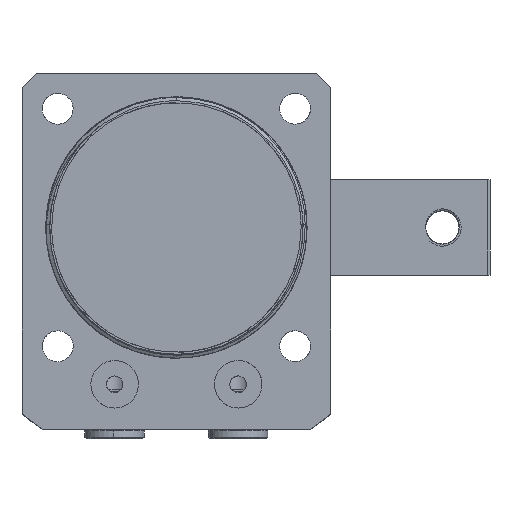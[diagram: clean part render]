
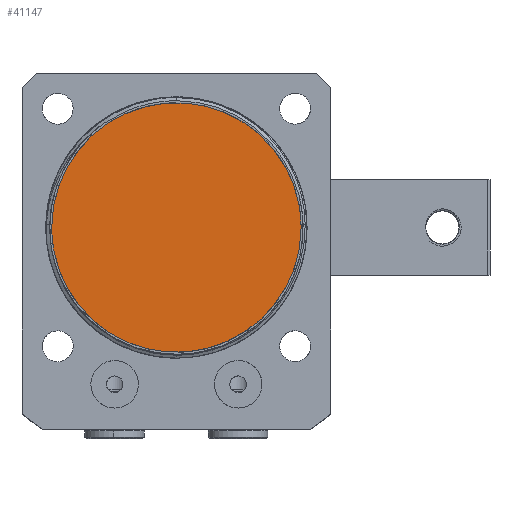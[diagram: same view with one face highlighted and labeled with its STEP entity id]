
A CAD part, front view. The second image highlights one B-rep face of the part: STEP entity #41147.
In plain terms, the highlighted planar face has unit normal (0, -1, 0) as drawn and (0, 0, -1) by its records, which use the part's own axes.
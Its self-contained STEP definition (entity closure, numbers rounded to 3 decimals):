
#5386 = CARTESIAN_POINT ( 'NONE',  ( -26.081, -3.436, 0. ) ) ;
#5719 = CARTESIAN_POINT ( 'NONE',  ( -3.436, -26.081, 0. ) ) ;
#6055 = CARTESIAN_POINT ( 'NONE',  ( 23.595, -11.633, 0. ) ) ;
#6116 = CARTESIAN_POINT ( 'NONE',  ( 24.91, 8.458, 0. ) ) ;
#6453 = CARTESIAN_POINT ( 'NONE',  ( -1.718, 26.25, 0. ) ) ;
#6778 = CARTESIAN_POINT ( 'NONE',  ( -25.41, 6.806, 0. ) ) ;
#12988 = CARTESIAN_POINT ( 'NONE',  ( -24.909, -8.458, 0. ) ) ;
#13317 = CARTESIAN_POINT ( 'NONE',  ( 1.718, -26.25, 0. ) ) ;
#13629 = CARTESIAN_POINT ( 'NONE',  ( 25.411, -6.806, 0. ) ) ;
#13688 = CARTESIAN_POINT ( 'NONE',  ( 22.781, 13.155, 0. ) ) ;
#14034 = CARTESIAN_POINT ( 'NONE',  ( -6.806, 25.41, 0. ) ) ;
#14366 = CARTESIAN_POINT ( 'NONE',  ( -26.25, 1.718, 0. ) ) ;
#14508 = ORIENTED_EDGE ( 'NONE', *, *, #47688, .F. ) ;
#15378 = DIRECTION ( 'NONE',  ( -1., 0., 0. ) ) ;
#15581 = DIRECTION ( 'NONE',  ( 0., 0., -1. ) ) ;
#15687 = PLANE ( 'NONE',  #63154 ) ;
#16661 = CARTESIAN_POINT ( 'NONE',  ( 26.25, 0., 0. ) ) ;
#17123 = VERTEX_POINT ( 'NONE', #16661 ) ;
#17781 = ORIENTED_EDGE ( 'NONE', *, *, #81432, .F. ) ;
#20486 = CARTESIAN_POINT ( 'NONE',  ( -22.78, -13.155, 0. ) ) ;
#20828 = CARTESIAN_POINT ( 'NONE',  ( 6.806, -25.41, 0. ) ) ;
#21151 = CARTESIAN_POINT ( 'NONE',  ( 26.25, -1.718, 0. ) ) ;
#21217 = CARTESIAN_POINT ( 'NONE',  ( 19.777, 17.347, 0. ) ) ;
#21545 = CARTESIAN_POINT ( 'NONE',  ( -11.632, 23.594, 0. ) ) ;
#23646 = B_SPLINE_CURVE_WITH_KNOTS ( 'NONE', 3,
 ( #79610, #28437, #94108, #50946, #6116, #58276, #13688, #65521, #21217, #72715, #28760, #79928, #36393, #87250, #43907, #94427, #51272, #6453, #58585, #14034, #65842, #21545, #73039, #29092, #80241, #36723, #87559, #44237, #94726, #51593, #6778, #58902, #14366, #66165 ),
 .UNSPECIFIED., .F., .F.,
 ( 4, 2, 2, 2, 2, 2, 2, 2, 2, 2, 2, 2, 2, 2, 2, 2, 4 ),
 ( 0., 0.063, 0.125, 0.188, 0.25, 0.313, 0.375, 0.438, 0.5, 0.563, 0.625, 0.688, 0.75, 0.813, 0.875, 0.938, 1. ),
 .UNSPECIFIED. ) ;
#24471 = CARTESIAN_POINT ( 'NONE',  ( 0., -13.125, 0. ) ) ;
#28033 = CARTESIAN_POINT ( 'NONE',  ( -19.776, -17.347, 0. ) ) ;
#28371 = CARTESIAN_POINT ( 'NONE',  ( 11.633, -23.594, 0. ) ) ;
#28437 = CARTESIAN_POINT ( 'NONE',  ( 26.25, 1.718, 0. ) ) ;
#28760 = CARTESIAN_POINT ( 'NONE',  ( 16.012, 20.872, 0. ) ) ;
#29092 = CARTESIAN_POINT ( 'NONE',  ( -16.012, 20.872, 0. ) ) ;
#33640 = VERTEX_POINT ( 'NONE', #47592 ) ;
#35657 = CARTESIAN_POINT ( 'NONE',  ( -16.012, -20.872, 0. ) ) ;
#35994 = CARTESIAN_POINT ( 'NONE',  ( 16.012, -20.872, 0. ) ) ;
#36393 = CARTESIAN_POINT ( 'NONE',  ( 11.633, 23.594, 0. ) ) ;
#36723 = CARTESIAN_POINT ( 'NONE',  ( -19.776, 17.347, 0. ) ) ;
#36899 = B_SPLINE_CURVE_WITH_KNOTS ( 'NONE', 3,
 ( #42873, #86250, #5386, #57574, #12988, #64859, #20486, #72011, #28033, #79242, #35657, #86562, #43200, #93740, #50569, #5719, #57885, #13317, #65161, #20828, #72334, #28371, #79557, #35994, #86865, #43532, #94052, #50888, #6055, #58215, #13629, #65464, #21151, #72657 ),
 .UNSPECIFIED., .F., .F.,
 ( 4, 2, 2, 2, 2, 2, 2, 2, 2, 2, 2, 2, 2, 2, 2, 2, 4 ),
 ( 0., 0.063, 0.125, 0.188, 0.25, 0.312, 0.375, 0.438, 0.5, 0.563, 0.625, 0.688, 0.75, 0.813, 0.875, 0.938, 1. ),
 .UNSPECIFIED. ) ;
#41147 = ADVANCED_FACE ( 'N', ( #79719 ), #15687, .T. ) ;
#42873 = CARTESIAN_POINT ( 'NONE',  ( -26.25, 0., 0. ) ) ;
#43200 = CARTESIAN_POINT ( 'NONE',  ( -11.632, -23.594, 0. ) ) ;
#43532 = CARTESIAN_POINT ( 'NONE',  ( 19.777, -17.347, 0. ) ) ;
#43907 = CARTESIAN_POINT ( 'NONE',  ( 6.806, 25.41, 0. ) ) ;
#44237 = CARTESIAN_POINT ( 'NONE',  ( -22.78, 13.155, 0. ) ) ;
#47555 = EDGE_LOOP ( 'NONE', ( #17781, #14508 ) ) ;
#47592 = CARTESIAN_POINT ( 'NONE',  ( -26.25, 0., 0. ) ) ;
#47688 = EDGE_CURVE ( 'NONE', #17123, #33640, #23646, .T. ) ;
#50569 = CARTESIAN_POINT ( 'NONE',  ( -6.806, -25.41, 0. ) ) ;
#50888 = CARTESIAN_POINT ( 'NONE',  ( 22.781, -13.155, 0. ) ) ;
#50946 = CARTESIAN_POINT ( 'NONE',  ( 25.411, 6.806, 0. ) ) ;
#51272 = CARTESIAN_POINT ( 'NONE',  ( 1.718, 26.25, 0. ) ) ;
#51593 = CARTESIAN_POINT ( 'NONE',  ( -24.909, 8.458, 0. ) ) ;
#57574 = CARTESIAN_POINT ( 'NONE',  ( -25.41, -6.806, 0. ) ) ;
#57885 = CARTESIAN_POINT ( 'NONE',  ( -1.718, -26.25, 0. ) ) ;
#58215 = CARTESIAN_POINT ( 'NONE',  ( 24.91, -8.458, 0. ) ) ;
#58276 = CARTESIAN_POINT ( 'NONE',  ( 23.595, 11.633, 0. ) ) ;
#58585 = CARTESIAN_POINT ( 'NONE',  ( -3.436, 26.081, 0. ) ) ;
#58902 = CARTESIAN_POINT ( 'NONE',  ( -26.081, 3.436, 0. ) ) ;
#63154 = AXIS2_PLACEMENT_3D ( 'NONE', #24471, #15581, #15378 ) ;
#64859 = CARTESIAN_POINT ( 'NONE',  ( -23.594, -11.633, 0. ) ) ;
#65161 = CARTESIAN_POINT ( 'NONE',  ( 3.436, -26.081, 0. ) ) ;
#65464 = CARTESIAN_POINT ( 'NONE',  ( 26.081, -3.436, 0. ) ) ;
#65521 = CARTESIAN_POINT ( 'NONE',  ( 20.872, 16.012, 0. ) ) ;
#65842 = CARTESIAN_POINT ( 'NONE',  ( -8.458, 24.909, 0. ) ) ;
#66165 = CARTESIAN_POINT ( 'NONE',  ( -26.25, 0., 0. ) ) ;
#72011 = CARTESIAN_POINT ( 'NONE',  ( -20.871, -16.012, 0. ) ) ;
#72334 = CARTESIAN_POINT ( 'NONE',  ( 8.458, -24.909, 0. ) ) ;
#72657 = CARTESIAN_POINT ( 'NONE',  ( 26.25, 0., 0. ) ) ;
#72715 = CARTESIAN_POINT ( 'NONE',  ( 17.347, 19.776, 0. ) ) ;
#73039 = CARTESIAN_POINT ( 'NONE',  ( -13.155, 22.781, 0. ) ) ;
#79242 = CARTESIAN_POINT ( 'NONE',  ( -17.346, -19.776, 0. ) ) ;
#79557 = CARTESIAN_POINT ( 'NONE',  ( 13.155, -22.781, 0. ) ) ;
#79610 = CARTESIAN_POINT ( 'NONE',  ( 26.25, 0., 0. ) ) ;
#79719 = FACE_OUTER_BOUND ( 'NONE', #47555, .T. ) ;
#79928 = CARTESIAN_POINT ( 'NONE',  ( 13.155, 22.781, 0. ) ) ;
#80241 = CARTESIAN_POINT ( 'NONE',  ( -17.346, 19.776, 0. ) ) ;
#81432 = EDGE_CURVE ( 'NONE', #33640, #17123, #36899, .T. ) ;
#86250 = CARTESIAN_POINT ( 'NONE',  ( -26.25, -1.718, 0. ) ) ;
#86562 = CARTESIAN_POINT ( 'NONE',  ( -13.155, -22.781, 0. ) ) ;
#86865 = CARTESIAN_POINT ( 'NONE',  ( 17.347, -19.776, 0. ) ) ;
#87250 = CARTESIAN_POINT ( 'NONE',  ( 8.458, 24.909, 0. ) ) ;
#87559 = CARTESIAN_POINT ( 'NONE',  ( -20.871, 16.012, 0. ) ) ;
#93740 = CARTESIAN_POINT ( 'NONE',  ( -8.458, -24.909, 0. ) ) ;
#94052 = CARTESIAN_POINT ( 'NONE',  ( 20.872, -16.012, 0. ) ) ;
#94108 = CARTESIAN_POINT ( 'NONE',  ( 26.081, 3.436, 0. ) ) ;
#94427 = CARTESIAN_POINT ( 'NONE',  ( 3.436, 26.081, 0. ) ) ;
#94726 = CARTESIAN_POINT ( 'NONE',  ( -23.594, 11.633, 0. ) ) ;
